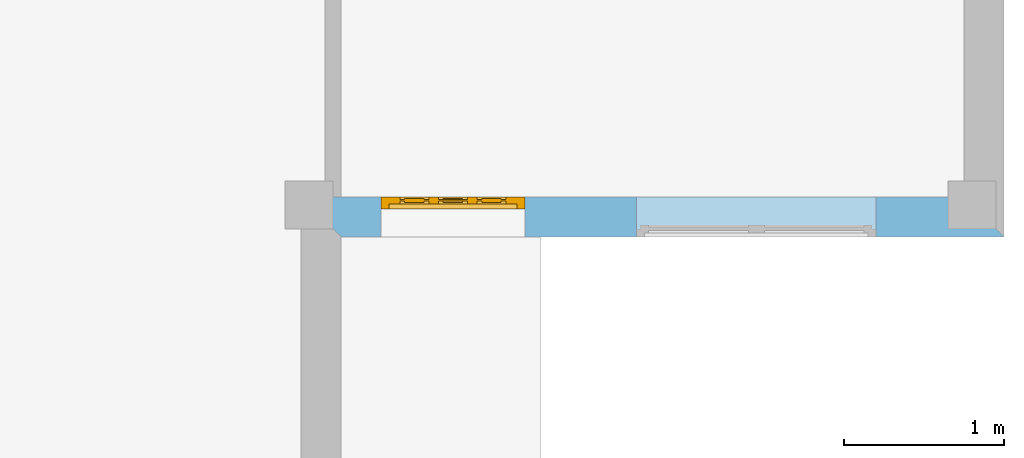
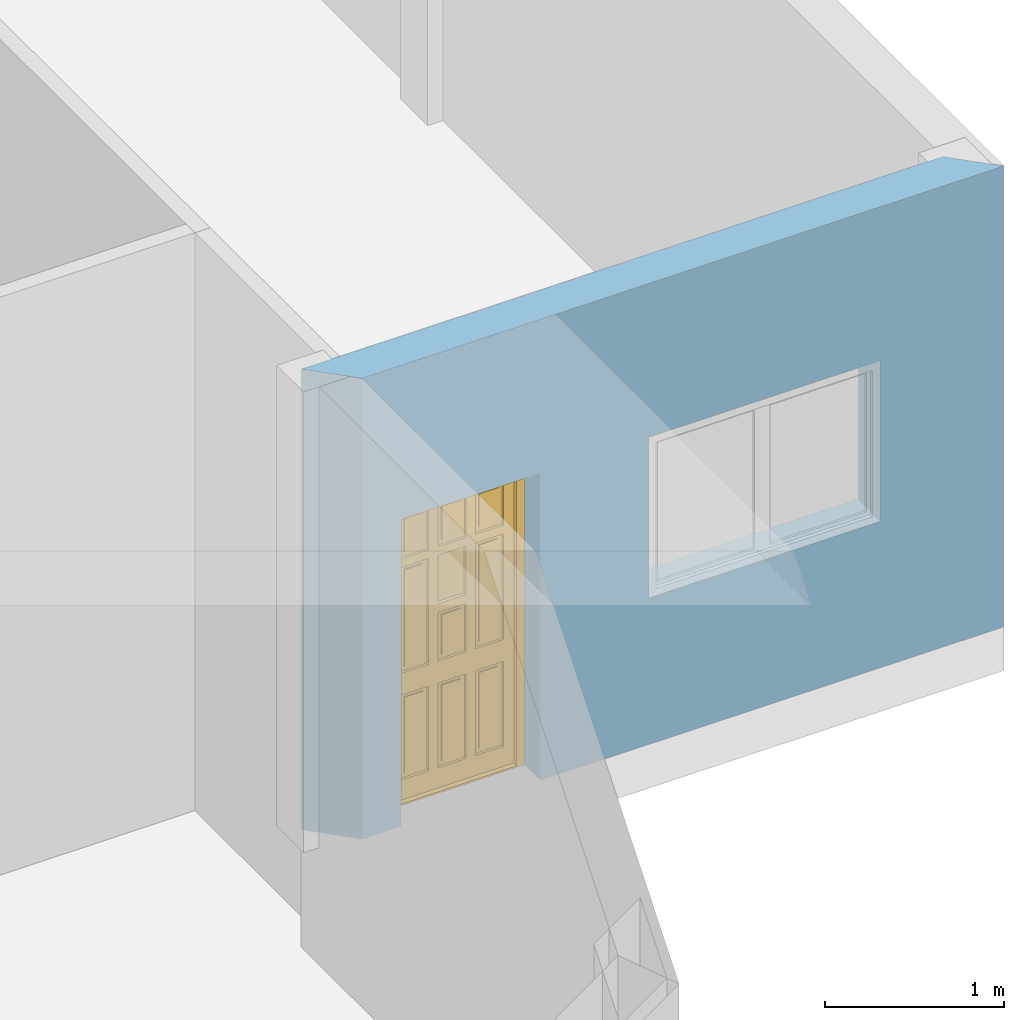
# One storey, part 4 of 5: 1 door, 2 openings, plus 1 element that does not belong to this part.
"""IFC2X3 building model written with IfcOpenShell, lengths in millimetres."""

from ifc_helpers import new_model, entity, si_unit, converted_unit, direction, frame, frame_2d, origin_with_axes, place, context, project, spatial, polyline, rectangle, outline, extrude, open_shell, surface_model, material, layer, layer_set, layer_usage, type_object, element, fill, save


model = new_model("IFC2X3")

# Units and contexts
context_of_model = context(None, 3, precision=1e-05, world=origin_with_axes(), true_north=direction((6.123234e-17, 1.0)))
plan_context = context("Plan", 3, precision=1e-05, world=origin_with_axes(), true_north=direction((6.123234e-17, 1.0)))
model_context = context("Model", 3, precision=1e-05, world=origin_with_axes(), true_north=direction((6.123234e-17, 1.0)))
ifc_project = project(units=[si_unit("LENGTHUNIT", "METRE", prefix="MILLI"), si_unit("AREAUNIT", "SQUARE_METRE"), si_unit("VOLUMEUNIT", "CUBIC_METRE"), converted_unit("PLANEANGLEUNIT", "DEGREE", entity("IfcPlaneAngleMeasure", 0.017453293), si_unit("PLANEANGLEUNIT", "RADIAN"), dimensions=[0, 0, 0, 0, 0, 0, 0]), si_unit("SOLIDANGLEUNIT", "STERADIAN"), si_unit("MASSUNIT", "GRAM"), si_unit("TIMEUNIT", "SECOND"), si_unit("THERMODYNAMICTEMPERATUREUNIT", "DEGREE_CELSIUS"), si_unit("LUMINOUSINTENSITYUNIT", "LUMEN")], contexts=[context_of_model, plan_context, model_context])

# Site, building, storey
site_placement = place(None, origin_with_axes())
site = spatial("IfcSite", under=ifc_project, at=site_placement, Name="Por defecto Sitio", CompositionType="ELEMENT")
building_placement = place(site_placement, origin_with_axes())
building = spatial("IfcBuilding", under=site, at=building_placement, Name="Por defecto Edificio", CompositionType="ELEMENT")
storey_placement = place(building_placement, origin_with_axes())
storey = spatial("IfcBuildingStorey", under=building, at=storey_placement, Name="Planta Baja", CompositionType="ELEMENT", Elevation=0.0)

# Wall, openings, door
ifc_material = material(Name="Bloque mampostería")
ifc_layer = layer(ifc_material, 250.0, ventilated="UNKNOWN")
ifc_layer_set = layer_set([ifc_layer], Name="Bloque mampostería 250")
ifc_layer_usage = layer_usage(ifc_layer_set, "AXIS2", "NEGATIVE", 0.0)
wall_type = type_object("IfcWallType", Name="Bloque mampostería 250", PredefinedType="NOTDEFINED", material=ifc_layer_set)
wall_placement = place(storey_placement, frame((7800.0, 3350.0, 0.0), z_axis=(0.0, 0.0, 1.0), x_axis=(-1.0, 0.0, 0.0)))
wall = element("IfcWallStandardCase", 1, at=wall_placement, inside=storey, type_object=wall_type, material=ifc_layer_usage, Name="Muro-001", context=model_context, shape_type="SweptSolid", body=[
    extrude(outline(polyline([(250.0, -250.0), (4400.0, -250.0), (4150.0, 0.0), (0.0, 0.0), (250.0, -250.0)])), origin_with_axes(), (0.0, 0.0, 1.0), 3150.0),
])
opening_1_placement = place(wall_placement, frame((3450.0, -250.0, 0.0), z_axis=(0.0, 0.0, 1.0), x_axis=(1.0, 0.0, 0.0)))
opening_1 = element("IfcOpeningElement", 2, at=opening_1_placement, cuts=wall, ObjectType="Opening", context=model_context, shape_type="SweptSolid", body=[
    extrude(rectangle(XDim=900.0, YDim=2100.0, at=frame_2d((0.0, 1050.0), x_axis=(-1.0, 0.0))), frame((0.0, 0.0, 0.0), z_axis=(0.0, 1.0, 0.0), x_axis=(-1.0, 0.0, 0.0)), (0.0, 0.0, 1.0), 250.0),
])
opening_2_placement = place(wall_placement, frame((1550.0, -250.0, 1000.0), z_axis=(0.0, 0.0, 1.0), x_axis=(1.0, 0.0, 0.0)))
element("IfcOpeningElement", 3, at=opening_2_placement, cuts=wall, ObjectType="Opening", context=model_context, shape_type="SweptSolid", body=[
    extrude(rectangle(XDim=1500.0, YDim=1100.0, at=frame_2d((0.0, 550.0), x_axis=(-1.0, 0.0))), frame((0.0, 0.0, 0.0), z_axis=(0.0, 1.0, 0.0), x_axis=(-1.0, 0.0, 0.0)), (0.0, 0.0, 1.0), 250.0),
])
door_style = type_object("IfcDoorStyle", Name="P1 Entrada 13", ConstructionType="NOTDEFINED", OperationType="SINGLE_SWING_LEFT", ParameterTakesPrecedence=False, Sizeable=False)
door_placement = place(opening_1_placement, frame((450.0, 75.0, 0.0), z_axis=(0.0, 0.0, 1.0), x_axis=(-1.0, 0.0, 0.0)))
door = element("IfcDoor", 4, at=door_placement, inside=storey, type_object=door_style, Name="P02", OverallHeight=2100.0, OverallWidth=900.0, context=model_context, shape_type="SurfaceModel", body=[
    surface_model("IfcShellBasedSurfaceModel", [(38.0, 31.0, -5.3884459e-15), (50.0, 31.0, -5.3884459e-15), (50.0, 31.0, 12.0), (38.0, 31.0, 12.0), (862.0, 31.0, -5.3884459e-15), (850.0, 31.0, -5.3884459e-15), (850.0, 4.4408921e-13, -9.184851e-15), (50.0, 8.8817842e-13, -9.184851e-15), (50.0, 8.8817842e-13, 12.0), (850.0, 4.4408921e-13, 12.0), (850.0, 31.0, 12.0), (862.0, 31.0, 12.0), (850.0, 31.0, -2.694223e-15), (850.0, 4.4408921e-13, -4.5924255e-15), (850.0, 4.4408921e-13, 2050.0), (850.0, 31.0, 2050.0), (862.0, 31.0, -2.694223e-15), (862.0, 75.0, -3.0895052e-30), (900.0, 75.0, -3.3744595e-30), (900.0, 4.4408921e-13, -4.5924255e-15), (900.0, 4.4408921e-13, 2050.0), (862.0, 31.0, 2050.0), (900.0, 75.0, 2050.0), (862.0, 75.0, 2050.0), (38.0, 31.0, 2050.0), (38.0, 75.0, 2050.0), (4.4408921e-13, 75.0, 2050.0), (4.4408921e-13, 4.4408921e-13, 2050.0), (50.0, 4.4408921e-13, 2050.0), (50.0, 31.0, 2050.0), (38.0, 31.0, -2.694223e-15), (38.0, 75.0, 3.0895052e-30), (4.4408921e-13, 75.0, 3.3744595e-30), (0.0, 0.0, 0.0), (50.0, 8.8817842e-13, -4.5924255e-15), (50.0, 31.0, -2.694223e-15), (862.0, 75.0, 2062.0), (38.0, 75.0, 2062.0), (38.0, 75.0, 2050.0), (4.4408921e-13, 75.0, 2050.0), (4.4408921e-13, 75.0, 2100.0), (900.0, 75.0, 2100.0), (900.0, 75.0, 2050.0), (862.0, 75.0, 2050.0), (862.0, 31.0, 2062.0), (38.0, 31.0, 2062.0), (38.0, 31.0, 2050.0), (50.0, 31.0, 2050.0), (50.0, 4.4408921e-13, 2050.0), (4.4408921e-13, 4.4408921e-13, 2050.0), (4.4408921e-13, 4.4408921e-13, 2100.0), (900.0, 4.4408921e-13, 2100.0), (900.0, 4.4408921e-13, 2050.0), (862.0, 31.0, 2050.0), (850.0, 4.4408921e-13, 2050.0), (850.0, 31.0, 2050.0), (38.0, 75.0, 150.0), (118.0, 75.0, 150.0), (118.0, 31.0, 150.0), (38.0, 31.0, 150.0), (38.0, 75.0, 1952.0), (118.0, 75.0, 1952.0), (118.0, 75.0, 1661.8667), (118.0, 75.0, 1601.8667), (118.0, 75.0, 880.0), (118.0, 75.0, 730.0), (118.0, 31.0, 730.0), (118.0, 31.0, 880.0), (118.0, 31.0, 1601.8667), (118.0, 31.0, 1661.8667), (118.0, 31.0, 1952.0), (38.0, 31.0, 1952.0), (862.0, 75.0, 150.0), (862.0, 75.0, 1952.0), (862.0, 31.0, 1952.0), (862.0, 31.0, 150.0), (782.0, 75.0, 150.0), (782.0, 75.0, 730.0), (782.0, 75.0, 880.0), (782.0, 75.0, 1601.8667), (782.0, 75.0, 1661.8667), (782.0, 75.0, 1952.0), (782.0, 31.0, 1952.0), (782.0, 31.0, 1661.8667), (782.0, 31.0, 1601.8667), (782.0, 31.0, 880.0), (782.0, 31.0, 730.0), (782.0, 31.0, 150.0), (38.0, 75.0, 3.0895052e-30), (862.0, 75.0, -3.0895052e-30), (862.0, 31.0, -2.694223e-15), (38.0, 31.0, -2.694223e-15), (38.0, 75.0, 150.0), (118.0, 75.0, 150.0), (299.33333, 75.0, 150.0), (359.33333, 75.0, 150.0), (540.66667, 75.0, 150.0), (600.66667, 75.0, 150.0), (782.0, 75.0, 150.0), (862.0, 75.0, 150.0), (862.0, 31.0, 150.0), (782.0, 31.0, 150.0), (600.66667, 31.0, 150.0), (540.66667, 31.0, 150.0), (359.33333, 31.0, 150.0), (299.33333, 31.0, 150.0), (118.0, 31.0, 150.0), (38.0, 31.0, 150.0), (38.0, 75.0, 2062.0), (38.0, 75.0, 1952.0), (38.0, 31.0, 1952.0), (38.0, 31.0, 2062.0), (862.0, 75.0, 2062.0), (862.0, 75.0, 1952.0), (782.0, 75.0, 1952.0), (600.66667, 75.0, 1952.0), (540.66667, 75.0, 1952.0), (359.33333, 75.0, 1952.0), (299.33333, 75.0, 1952.0), (118.0, 75.0, 1952.0), (118.0, 31.0, 1952.0), (299.33333, 31.0, 1952.0), (359.33333, 31.0, 1952.0), (540.66667, 31.0, 1952.0), (600.66667, 31.0, 1952.0), (782.0, 31.0, 1952.0), (862.0, 31.0, 1952.0), (862.0, 31.0, 2062.0), (359.33333, 75.0, 150.0), (359.33333, 75.0, 730.0), (359.33333, 31.0, 730.0), (359.33333, 31.0, 150.0), (299.33333, 75.0, 150.0), (299.33333, 75.0, 730.0), (299.33333, 31.0, 730.0), (299.33333, 31.0, 150.0), (359.33333, 75.0, 880.0), (359.33333, 75.0, 1210.9333), (359.33333, 31.0, 1210.9333), (359.33333, 31.0, 880.0), (299.33333, 75.0, 880.0), (299.33333, 75.0, 1601.8667), (359.33333, 75.0, 1601.8667), (359.33333, 75.0, 1270.9333), (359.33333, 31.0, 1270.9333), (359.33333, 31.0, 1601.8667), (299.33333, 31.0, 1601.8667), (299.33333, 31.0, 880.0), (359.33333, 75.0, 1661.8667), (359.33333, 75.0, 1952.0), (359.33333, 31.0, 1952.0), (359.33333, 31.0, 1661.8667), (299.33333, 75.0, 1661.8667), (299.33333, 75.0, 1952.0), (299.33333, 31.0, 1952.0), (299.33333, 31.0, 1661.8667), (600.66667, 75.0, 150.0), (600.66667, 75.0, 730.0), (600.66667, 31.0, 730.0), (600.66667, 31.0, 150.0), (540.66667, 75.0, 150.0), (540.66667, 75.0, 730.0), (540.66667, 31.0, 730.0), (540.66667, 31.0, 150.0), (600.66667, 75.0, 880.0), (600.66667, 75.0, 1601.8667), (600.66667, 31.0, 1601.8667), (600.66667, 31.0, 880.0), (540.66667, 75.0, 880.0), (540.66667, 75.0, 1210.9333), (540.66667, 75.0, 1270.9333), (540.66667, 75.0, 1601.8667), (540.66667, 31.0, 1601.8667), (540.66667, 31.0, 1270.9333), (540.66667, 31.0, 1210.9333), (540.66667, 31.0, 880.0), (600.66667, 75.0, 1661.8667), (600.66667, 75.0, 1952.0), (600.66667, 31.0, 1952.0), (600.66667, 31.0, 1661.8667), (540.66667, 75.0, 1661.8667), (540.66667, 75.0, 1952.0), (540.66667, 31.0, 1952.0), (540.66667, 31.0, 1661.8667), (118.0, 75.0, 1601.8667), (299.33333, 75.0, 1601.8667), (299.33333, 31.0, 1601.8667), (118.0, 31.0, 1601.8667), (118.0, 75.0, 1661.8667), (299.33333, 75.0, 1661.8667), (359.33333, 75.0, 1661.8667), (540.66667, 75.0, 1661.8667), (600.66667, 75.0, 1661.8667), (782.0, 75.0, 1661.8667), (782.0, 75.0, 1601.8667), (600.66667, 75.0, 1601.8667), (540.66667, 75.0, 1601.8667), (359.33333, 75.0, 1601.8667), (359.33333, 31.0, 1601.8667), (540.66667, 31.0, 1601.8667), (600.66667, 31.0, 1601.8667), (782.0, 31.0, 1601.8667), (782.0, 31.0, 1661.8667), (600.66667, 31.0, 1661.8667), (540.66667, 31.0, 1661.8667), (359.33333, 31.0, 1661.8667), (299.33333, 31.0, 1661.8667), (118.0, 31.0, 1661.8667), (540.66667, 75.0, 1210.9333), (540.66667, 75.0, 1270.9333), (540.66667, 31.0, 1270.9333), (540.66667, 31.0, 1210.9333), (359.33333, 75.0, 1210.9333), (359.33333, 75.0, 1270.9333), (359.33333, 31.0, 1270.9333), (359.33333, 31.0, 1210.9333), (118.0, 75.0, 730.0), (299.33333, 75.0, 730.0), (299.33333, 31.0, 730.0), (118.0, 31.0, 730.0), (118.0, 75.0, 880.0), (299.33333, 75.0, 880.0), (359.33333, 75.0, 880.0), (540.66667, 75.0, 880.0), (600.66667, 75.0, 880.0), (782.0, 75.0, 880.0), (782.0, 75.0, 730.0), (600.66667, 75.0, 730.0), (540.66667, 75.0, 730.0), (359.33333, 75.0, 730.0), (359.33333, 31.0, 730.0), (540.66667, 31.0, 730.0), (600.66667, 31.0, 730.0), (782.0, 31.0, 730.0), (782.0, 31.0, 880.0), (600.66667, 31.0, 880.0), (540.66667, 31.0, 880.0), (359.33333, 31.0, 880.0), (299.33333, 31.0, 880.0), (118.0, 31.0, 880.0), (118.0, 58.0, 150.0), (299.33333, 58.0, 150.0), (299.33333, 48.0, 150.0), (118.0, 48.0, 150.0), (118.0, 58.0, 730.0), (299.33333, 58.0, 730.0), (299.33333, 48.0, 730.0), (118.0, 48.0, 730.0), (359.33333, 58.0, 150.0), (540.66667, 58.0, 150.0), (540.66667, 48.0, 150.0), (359.33333, 48.0, 150.0), (359.33333, 58.0, 730.0), (540.66667, 58.0, 730.0), (540.66667, 48.0, 730.0), (359.33333, 48.0, 730.0), (600.66667, 58.0, 150.0), (782.0, 58.0, 150.0), (782.0, 48.0, 150.0), (600.66667, 48.0, 150.0), (600.66667, 58.0, 730.0), (782.0, 58.0, 730.0), (782.0, 48.0, 730.0), (600.66667, 48.0, 730.0), (118.0, 58.0, 1661.8667), (299.33333, 58.0, 1661.8667), (299.33333, 48.0, 1661.8667), (118.0, 48.0, 1661.8667), (118.0, 58.0, 1952.0), (299.33333, 58.0, 1952.0), (299.33333, 48.0, 1952.0), (118.0, 48.0, 1952.0), (359.33333, 58.0, 1661.8667), (540.66667, 58.0, 1661.8667), (540.66667, 48.0, 1661.8667), (359.33333, 48.0, 1661.8667), (359.33333, 58.0, 1952.0), (540.66667, 58.0, 1952.0), (540.66667, 48.0, 1952.0), (359.33333, 48.0, 1952.0), (600.66667, 58.0, 1661.8667), (782.0, 58.0, 1661.8667), (782.0, 48.0, 1661.8667), (600.66667, 48.0, 1661.8667), (600.66667, 58.0, 1952.0), (782.0, 58.0, 1952.0), (782.0, 48.0, 1952.0), (600.66667, 48.0, 1952.0), (118.0, 58.0, 880.0), (299.33333, 58.0, 880.0), (299.33333, 48.0, 880.0), (118.0, 48.0, 880.0), (118.0, 58.0, 1601.8667), (299.33333, 58.0, 1601.8667), (299.33333, 48.0, 1601.8667), (118.0, 48.0, 1601.8667), (359.33333, 58.0, 880.0), (540.66667, 58.0, 880.0), (540.66667, 48.0, 880.0), (359.33333, 48.0, 880.0), (359.33333, 58.0, 1210.9333), (540.66667, 58.0, 1210.9333), (540.66667, 48.0, 1210.9333), (359.33333, 48.0, 1210.9333), (600.66667, 58.0, 880.0), (782.0, 58.0, 880.0), (782.0, 48.0, 880.0), (600.66667, 48.0, 880.0), (600.66667, 58.0, 1601.8667), (782.0, 58.0, 1601.8667), (782.0, 48.0, 1601.8667), (600.66667, 48.0, 1601.8667), (359.33333, 53.0, 1270.9333), (359.33333, 53.0, 1601.8667), (540.66667, 53.0, 1601.8667), (540.66667, 53.0, 1270.9333), (148.0, 66.0, 180.0), (269.33333, 66.0, 180.0), (269.33333, 58.0, 180.0), (148.0, 58.0, 180.0), (148.0, 66.0, 700.0), (269.33333, 66.0, 700.0), (269.33333, 58.0, 700.0), (148.0, 58.0, 700.0), (389.33333, 66.0, 180.0), (510.66667, 66.0, 180.0), (510.66667, 58.0, 180.0), (389.33333, 58.0, 180.0), (389.33333, 66.0, 700.0), (510.66667, 66.0, 700.0), (510.66667, 58.0, 700.0), (389.33333, 58.0, 700.0), (630.66667, 66.0, 180.0), (752.0, 66.0, 180.0), (752.0, 58.0, 180.0), (630.66667, 58.0, 180.0), (630.66667, 66.0, 700.0), (752.0, 66.0, 700.0), (752.0, 58.0, 700.0), (630.66667, 58.0, 700.0), (148.0, 66.0, 1691.8667), (269.33333, 66.0, 1691.8667), (269.33333, 58.0, 1691.8667), (148.0, 58.0, 1691.8667), (148.0, 66.0, 1922.0), (269.33333, 66.0, 1922.0), (269.33333, 58.0, 1922.0), (148.0, 58.0, 1922.0), (389.33333, 66.0, 1691.8667), (510.66667, 66.0, 1691.8667), (510.66667, 58.0, 1691.8667), (389.33333, 58.0, 1691.8667), (389.33333, 66.0, 1922.0), (510.66667, 66.0, 1922.0), (510.66667, 58.0, 1922.0), (389.33333, 58.0, 1922.0), (630.66667, 66.0, 1691.8667), (752.0, 66.0, 1691.8667), (752.0, 58.0, 1691.8667), (630.66667, 58.0, 1691.8667), (630.66667, 66.0, 1922.0), (752.0, 66.0, 1922.0), (752.0, 58.0, 1922.0), (630.66667, 58.0, 1922.0), (148.0, 66.0, 910.0), (269.33333, 66.0, 910.0), (269.33333, 58.0, 910.0), (148.0, 58.0, 910.0), (148.0, 66.0, 1571.8667), (269.33333, 66.0, 1571.8667), (269.33333, 58.0, 1571.8667), (148.0, 58.0, 1571.8667), (389.33333, 66.0, 910.0), (510.66667, 66.0, 910.0), (510.66667, 58.0, 910.0), (389.33333, 58.0, 910.0), (389.33333, 66.0, 1180.9333), (510.66667, 66.0, 1180.9333), (510.66667, 58.0, 1180.9333), (389.33333, 58.0, 1180.9333), (630.66667, 66.0, 910.0), (752.0, 66.0, 910.0), (752.0, 58.0, 910.0), (630.66667, 58.0, 910.0), (630.66667, 66.0, 1571.8667), (752.0, 66.0, 1571.8667), (752.0, 58.0, 1571.8667), (630.66667, 58.0, 1571.8667), (148.0, 48.0, 180.0), (269.33333, 48.0, 180.0), (269.33333, 40.0, 180.0), (148.0, 40.0, 180.0), (148.0, 48.0, 700.0), (269.33333, 48.0, 700.0), (269.33333, 40.0, 700.0), (148.0, 40.0, 700.0), (389.33333, 48.0, 180.0), (510.66667, 48.0, 180.0), (510.66667, 40.0, 180.0), (389.33333, 40.0, 180.0), (389.33333, 48.0, 700.0), (510.66667, 48.0, 700.0), (510.66667, 40.0, 700.0), (389.33333, 40.0, 700.0), (630.66667, 48.0, 180.0), (752.0, 48.0, 180.0), (752.0, 40.0, 180.0), (630.66667, 40.0, 180.0), (630.66667, 48.0, 700.0), (752.0, 48.0, 700.0), (752.0, 40.0, 700.0), (630.66667, 40.0, 700.0), (148.0, 48.0, 1691.8667), (269.33333, 48.0, 1691.8667), (269.33333, 40.0, 1691.8667), (148.0, 40.0, 1691.8667), (148.0, 48.0, 1922.0), (269.33333, 48.0, 1922.0), (269.33333, 40.0, 1922.0), (148.0, 40.0, 1922.0), (389.33333, 48.0, 1691.8667), (510.66667, 48.0, 1691.8667), (510.66667, 40.0, 1691.8667), (389.33333, 40.0, 1691.8667), (389.33333, 48.0, 1922.0), (510.66667, 48.0, 1922.0), (510.66667, 40.0, 1922.0), (389.33333, 40.0, 1922.0), (630.66667, 48.0, 1691.8667), (752.0, 48.0, 1691.8667), (752.0, 40.0, 1691.8667), (630.66667, 40.0, 1691.8667), (630.66667, 48.0, 1922.0), (752.0, 48.0, 1922.0), (752.0, 40.0, 1922.0), (630.66667, 40.0, 1922.0), (148.0, 48.0, 910.0), (269.33333, 48.0, 910.0), (269.33333, 40.0, 910.0), (148.0, 40.0, 910.0), (148.0, 48.0, 1571.8667), (269.33333, 48.0, 1571.8667), (269.33333, 40.0, 1571.8667), (148.0, 40.0, 1571.8667), (389.33333, 48.0, 910.0), (510.66667, 48.0, 910.0), (510.66667, 40.0, 910.0), (389.33333, 40.0, 910.0), (389.33333, 48.0, 1180.9333), (510.66667, 48.0, 1180.9333), (510.66667, 40.0, 1180.9333), (389.33333, 40.0, 1180.9333), (630.66667, 48.0, 910.0), (752.0, 48.0, 910.0), (752.0, 40.0, 910.0), (630.66667, 40.0, 910.0), (630.66667, 48.0, 1571.8667), (752.0, 48.0, 1571.8667), (752.0, 40.0, 1571.8667), (630.66667, 40.0, 1571.8667)], [open_shell([[[0, 1, 2, 3]], [[0, 4, 5, 6, 7, 1]], [[1, 7, 8, 2]], [[3, 2, 8, 9, 10, 11]], [[4, 0, 3, 11]], [[5, 4, 11, 10]], [[6, 5, 10, 9]], [[7, 6, 9, 8]]]), open_shell([[[12, 13, 14, 15]], [[16, 17, 18, 19, 13, 12]], [[19, 20, 14, 13]], [[21, 15, 14, 20, 22, 23]], [[21, 16, 12, 15]], [[23, 17, 16, 21]], [[23, 22, 18, 17]], [[20, 19, 18, 22]]]), open_shell([[[24, 25, 26, 27, 28, 29]], [[24, 30, 31, 25]], [[31, 32, 26, 25]], [[33, 27, 26, 32]], [[34, 28, 27, 33]], [[29, 28, 34, 35]], [[29, 35, 30, 24]], [[30, 35, 34, 33, 32, 31]]]), open_shell([[[36, 37, 38, 39, 40, 41, 42, 43]], [[36, 44, 45, 37]], [[37, 45, 46, 38]], [[46, 47, 48, 49, 39, 38]], [[49, 50, 40, 39]], [[50, 51, 41, 40]], [[51, 52, 42, 41]], [[53, 43, 42, 52, 54, 55]], [[43, 53, 44, 36]], [[46, 45, 44, 53, 55, 47]], [[55, 54, 48, 47]], [[50, 49, 48, 54, 52, 51]]]), open_shell([[[56, 57, 58, 59]], [[56, 60, 61, 62, 63, 64, 65, 57]], [[57, 65, 66, 58]], [[59, 58, 66, 67, 68, 69, 70, 71]], [[60, 56, 59, 71]], [[61, 60, 71, 70]], [[62, 61, 70, 69]], [[63, 62, 69, 68]], [[64, 63, 68, 67]], [[65, 64, 67, 66]]]), open_shell([[[72, 73, 74, 75]], [[72, 76, 77, 78, 79, 80, 81, 73]], [[73, 81, 82, 74]], [[75, 74, 82, 83, 84, 85, 86, 87]], [[76, 72, 75, 87]], [[77, 76, 87, 86]], [[78, 77, 86, 85]], [[79, 78, 85, 84]], [[80, 79, 84, 83]], [[81, 80, 83, 82]]]), open_shell([[[88, 89, 90, 91]], [[88, 92, 93, 94, 95, 96, 97, 98, 99, 89]], [[89, 99, 100, 90]], [[91, 90, 100, 101, 102, 103, 104, 105, 106, 107]], [[92, 88, 91, 107]], [[93, 92, 107, 106]], [[94, 93, 106, 105]], [[95, 94, 105, 104]], [[96, 95, 104, 103]], [[97, 96, 103, 102]], [[98, 97, 102, 101]], [[99, 98, 101, 100]]]), open_shell([[[108, 109, 110, 111]], [[108, 112, 113, 114, 115, 116, 117, 118, 119, 109]], [[109, 119, 120, 110]], [[111, 110, 120, 121, 122, 123, 124, 125, 126, 127]], [[112, 108, 111, 127]], [[113, 112, 127, 126]], [[114, 113, 126, 125]], [[115, 114, 125, 124]], [[116, 115, 124, 123]], [[117, 116, 123, 122]], [[118, 117, 122, 121]], [[119, 118, 121, 120]]]), open_shell([[[128, 129, 130, 131]], [[128, 132, 133, 129]], [[129, 133, 134, 130]], [[131, 130, 134, 135]], [[132, 128, 131, 135]], [[133, 132, 135, 134]]]), open_shell([[[136, 137, 138, 139]], [[136, 140, 141, 142, 143, 137]], [[137, 143, 144, 138]], [[139, 138, 144, 145, 146, 147]], [[140, 136, 139, 147]], [[141, 140, 147, 146]], [[142, 141, 146, 145]], [[143, 142, 145, 144]]]), open_shell([[[148, 149, 150, 151]], [[148, 152, 153, 149]], [[149, 153, 154, 150]], [[151, 150, 154, 155]], [[152, 148, 151, 155]], [[153, 152, 155, 154]]]), open_shell([[[156, 157, 158, 159]], [[156, 160, 161, 157]], [[157, 161, 162, 158]], [[159, 158, 162, 163]], [[160, 156, 159, 163]], [[161, 160, 163, 162]]]), open_shell([[[164, 165, 166, 167]], [[164, 168, 169, 170, 171, 165]], [[165, 171, 172, 166]], [[167, 166, 172, 173, 174, 175]], [[168, 164, 167, 175]], [[169, 168, 175, 174]], [[170, 169, 174, 173]], [[171, 170, 173, 172]]]), open_shell([[[176, 177, 178, 179]], [[176, 180, 181, 177]], [[177, 181, 182, 178]], [[179, 178, 182, 183]], [[180, 176, 179, 183]], [[181, 180, 183, 182]]]), open_shell([[[184, 185, 186, 187]], [[184, 188, 189, 190, 191, 192, 193, 194, 195, 196, 197, 185]], [[185, 197, 198, 186]], [[187, 186, 198, 199, 200, 201, 202, 203, 204, 205, 206, 207]], [[188, 184, 187, 207]], [[189, 188, 207, 206]], [[190, 189, 206, 205]], [[191, 190, 205, 204]], [[192, 191, 204, 203]], [[193, 192, 203, 202]], [[194, 193, 202, 201]], [[195, 194, 201, 200]], [[196, 195, 200, 199]], [[197, 196, 199, 198]]]), open_shell([[[208, 209, 210, 211]], [[208, 212, 213, 209]], [[209, 213, 214, 210]], [[211, 210, 214, 215]], [[212, 208, 211, 215]], [[213, 212, 215, 214]]]), open_shell([[[216, 217, 218, 219]], [[216, 220, 221, 222, 223, 224, 225, 226, 227, 228, 229, 217]], [[217, 229, 230, 218]], [[219, 218, 230, 231, 232, 233, 234, 235, 236, 237, 238, 239]], [[220, 216, 219, 239]], [[221, 220, 239, 238]], [[222, 221, 238, 237]], [[223, 222, 237, 236]], [[224, 223, 236, 235]], [[225, 224, 235, 234]], [[226, 225, 234, 233]], [[227, 226, 233, 232]], [[228, 227, 232, 231]], [[229, 228, 231, 230]]]), open_shell([[[240, 241, 242, 243]], [[240, 244, 245, 241]], [[241, 245, 246, 242]], [[243, 242, 246, 247]], [[244, 240, 243, 247]], [[245, 244, 247, 246]]]), open_shell([[[248, 249, 250, 251]], [[248, 252, 253, 249]], [[249, 253, 254, 250]], [[251, 250, 254, 255]], [[252, 248, 251, 255]], [[253, 252, 255, 254]]]), open_shell([[[256, 257, 258, 259]], [[256, 260, 261, 257]], [[257, 261, 262, 258]], [[259, 258, 262, 263]], [[260, 256, 259, 263]], [[261, 260, 263, 262]]]), open_shell([[[264, 265, 266, 267]], [[264, 268, 269, 265]], [[265, 269, 270, 266]], [[267, 266, 270, 271]], [[268, 264, 267, 271]], [[269, 268, 271, 270]]]), open_shell([[[272, 273, 274, 275]], [[272, 276, 277, 273]], [[273, 277, 278, 274]], [[275, 274, 278, 279]], [[276, 272, 275, 279]], [[277, 276, 279, 278]]]), open_shell([[[280, 281, 282, 283]], [[280, 284, 285, 281]], [[281, 285, 286, 282]], [[283, 282, 286, 287]], [[284, 280, 283, 287]], [[285, 284, 287, 286]]]), open_shell([[[288, 289, 290, 291]], [[288, 292, 293, 289]], [[289, 293, 294, 290]], [[291, 290, 294, 295]], [[292, 288, 291, 295]], [[293, 292, 295, 294]]]), open_shell([[[296, 297, 298, 299]], [[296, 300, 301, 297]], [[297, 301, 302, 298]], [[299, 298, 302, 303]], [[300, 296, 299, 303]], [[301, 300, 303, 302]]]), open_shell([[[304, 305, 306, 307]], [[304, 308, 309, 305]], [[305, 309, 310, 306]], [[307, 306, 310, 311]], [[308, 304, 307, 311]], [[309, 308, 311, 310]]]), open_shell([[[312, 313, 314, 315]]]), open_shell([[[316, 317, 318, 319]], [[316, 320, 321, 317]], [[317, 321, 322, 318]], [[319, 318, 322, 323]], [[320, 316, 319, 323]], [[321, 320, 323, 322]]]), open_shell([[[324, 325, 326, 327]], [[324, 328, 329, 325]], [[325, 329, 330, 326]], [[327, 326, 330, 331]], [[328, 324, 327, 331]], [[329, 328, 331, 330]]]), open_shell([[[332, 333, 334, 335]], [[332, 336, 337, 333]], [[333, 337, 338, 334]], [[335, 334, 338, 339]], [[336, 332, 335, 339]], [[337, 336, 339, 338]]]), open_shell([[[340, 341, 342, 343]], [[340, 344, 345, 341]], [[341, 345, 346, 342]], [[343, 342, 346, 347]], [[344, 340, 343, 347]], [[345, 344, 347, 346]]]), open_shell([[[348, 349, 350, 351]], [[348, 352, 353, 349]], [[349, 353, 354, 350]], [[351, 350, 354, 355]], [[352, 348, 351, 355]], [[353, 352, 355, 354]]]), open_shell([[[356, 357, 358, 359]], [[356, 360, 361, 357]], [[357, 361, 362, 358]], [[359, 358, 362, 363]], [[360, 356, 359, 363]], [[361, 360, 363, 362]]]), open_shell([[[364, 365, 366, 367]], [[364, 368, 369, 365]], [[365, 369, 370, 366]], [[367, 366, 370, 371]], [[368, 364, 367, 371]], [[369, 368, 371, 370]]]), open_shell([[[372, 373, 374, 375]], [[372, 376, 377, 373]], [[373, 377, 378, 374]], [[375, 374, 378, 379]], [[376, 372, 375, 379]], [[377, 376, 379, 378]]]), open_shell([[[380, 381, 382, 383]], [[380, 384, 385, 381]], [[381, 385, 386, 382]], [[383, 382, 386, 387]], [[384, 380, 383, 387]], [[385, 384, 387, 386]]]), open_shell([[[388, 389, 390, 391]], [[388, 392, 393, 389]], [[389, 393, 394, 390]], [[391, 390, 394, 395]], [[392, 388, 391, 395]], [[393, 392, 395, 394]]]), open_shell([[[396, 397, 398, 399]], [[396, 400, 401, 397]], [[397, 401, 402, 398]], [[399, 398, 402, 403]], [[400, 396, 399, 403]], [[401, 400, 403, 402]]]), open_shell([[[404, 405, 406, 407]], [[404, 408, 409, 405]], [[405, 409, 410, 406]], [[407, 406, 410, 411]], [[408, 404, 407, 411]], [[409, 408, 411, 410]]]), open_shell([[[412, 413, 414, 415]], [[412, 416, 417, 413]], [[413, 417, 418, 414]], [[415, 414, 418, 419]], [[416, 412, 415, 419]], [[417, 416, 419, 418]]]), open_shell([[[420, 421, 422, 423]], [[420, 424, 425, 421]], [[421, 425, 426, 422]], [[423, 422, 426, 427]], [[424, 420, 423, 427]], [[425, 424, 427, 426]]]), open_shell([[[428, 429, 430, 431]], [[428, 432, 433, 429]], [[429, 433, 434, 430]], [[431, 430, 434, 435]], [[432, 428, 431, 435]], [[433, 432, 435, 434]]]), open_shell([[[436, 437, 438, 439]], [[436, 440, 441, 437]], [[437, 441, 442, 438]], [[439, 438, 442, 443]], [[440, 436, 439, 443]], [[441, 440, 443, 442]]]), open_shell([[[444, 445, 446, 447]], [[444, 448, 449, 445]], [[445, 449, 450, 446]], [[447, 446, 450, 451]], [[448, 444, 447, 451]], [[449, 448, 451, 450]]]), open_shell([[[452, 453, 454, 455]], [[452, 456, 457, 453]], [[453, 457, 458, 454]], [[455, 454, 458, 459]], [[456, 452, 455, 459]], [[457, 456, 459, 458]]])]),
])
fill(opening_1, door)

save(model, "model.ifc")
